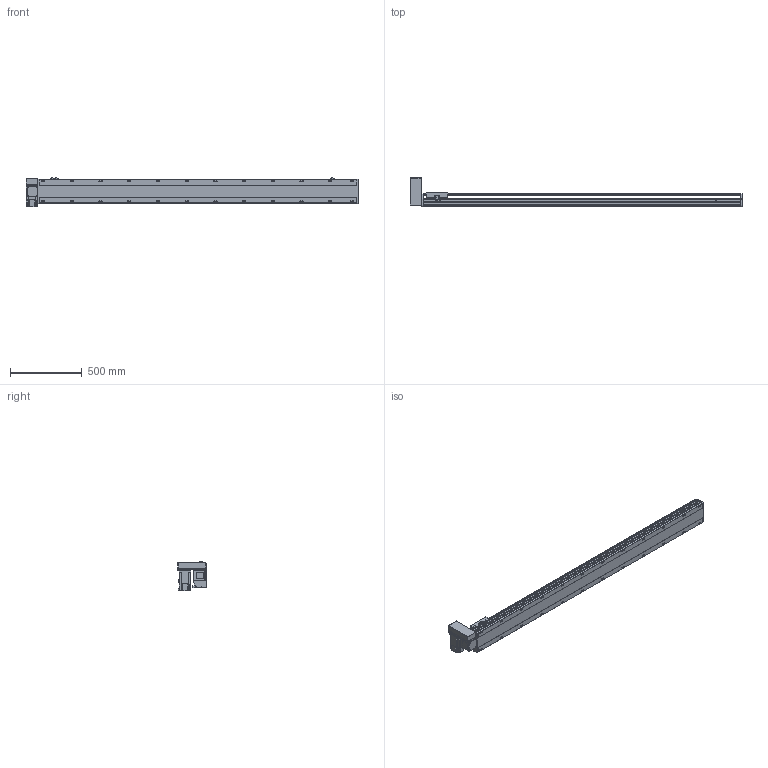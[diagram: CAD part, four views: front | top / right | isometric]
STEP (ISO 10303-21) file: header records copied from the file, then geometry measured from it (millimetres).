
FILE_DESCRIPTION(/* description */ ('STEP AP214'),/* implementation_level */ '2;1');
FILE_NAME(/* name */ 'PBS170-P40-S1950-RU-T75-C1-N(0)',/* time_stamp */ '2022-06-08T07:59:53+02:00',/* author */ ('License CC BY-ND 4.0'),/* organization */ ('CADENAS'),/* preprocessor_version */ 'ST-DEVELOPER v18.102',/* originating_system */ 'PARTsolutions',/* authorisation */ ' ');
FILE_SCHEMA (('AUTOMOTIVE_DESIGN {1 0 10303 214 3 1 1}'));
Length unit declared in the file: millimetre
Products named in the file (7): PBS170-P40-S1950-RU-T75-C1-N(0); PBS170_sensor; PBS170_plant; PBS170_sliser; T75-p1; PBS170T-RU_motors; PBS170-S1950()_body
Assembly tree (8 placements, depth 2):
  PBS170-P40-S1950-RU-T75-C1-N(0)
    PBS170_sensor  x3
    PBS170_plant
    PBS170_sliser
    T75-p1
    PBS170T-RU_motors
    PBS170-S1950()_body
Bounding box: 2313 x 206 x 205.3 mm (x, y, z)
Volume: 17760038.5 mm3; surface area: 2256627.2 mm2
Topology: 8 solids, 8 shells, 1146 faces, 3035 edges, 1978 vertices
Faces by surface type: plane 711, cylinder 371, cone 54, sphere 8, torus 2
Full cylindrical faces by diameter (mm): 3.242 x4, 4 x2, 4.4 x4, 4.5 x6, 4.917 x4, 6 x9, 6.647 x32, 7 x2, 7.5 x4, 8 x8, 8.5 x24, 10 x4, 10.5 x24, 11 x2, 30 x2, 40 x1, 70 x1
Entity records: 32950 total; most frequent: CARTESIAN_POINT 6161, DIRECTION 5580, ORIENTED_EDGE 5268, EDGE_CURVE 2634, AXIS2_PLACEMENT_3D 1957, VERTEX_POINT 1826, LINE 1666, VECTOR 1666
